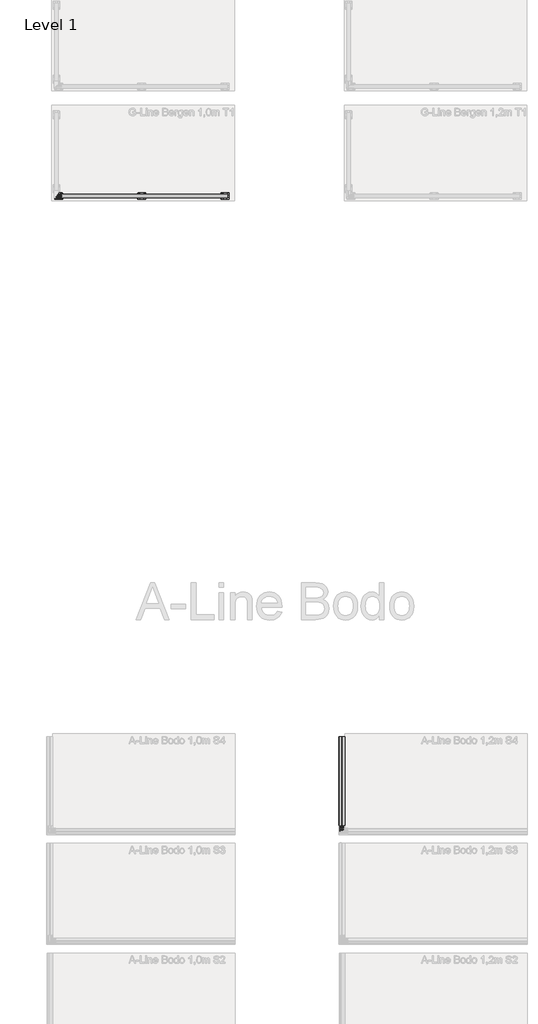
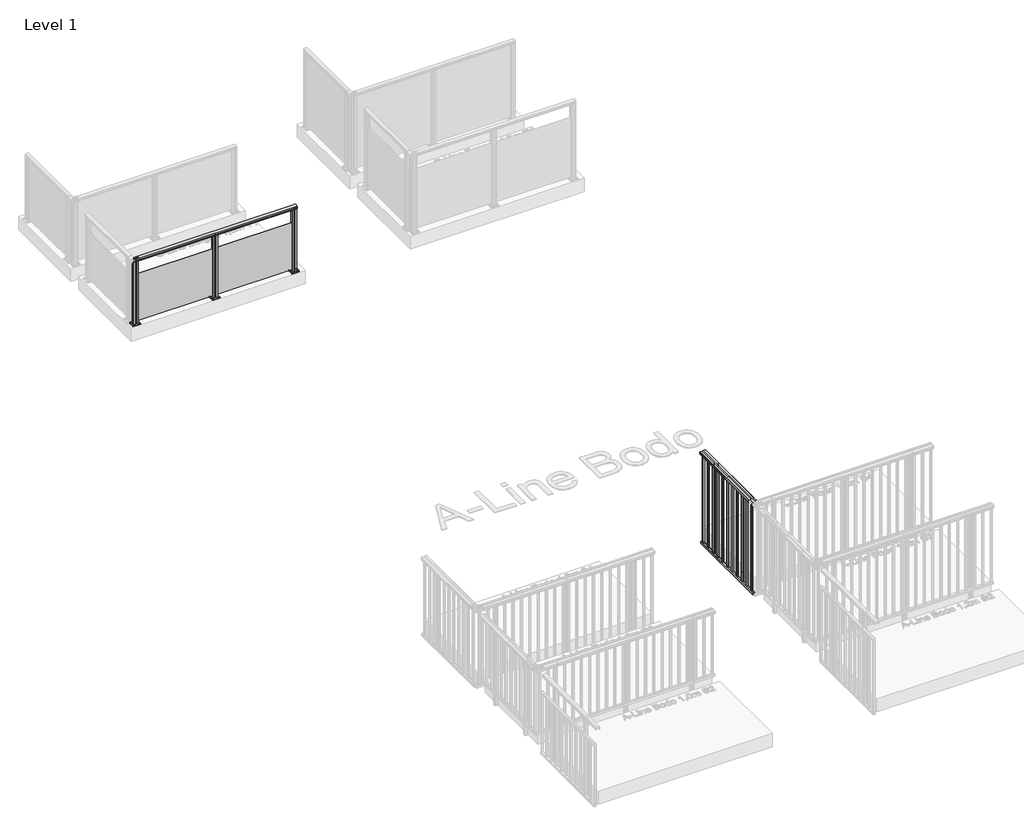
# One storey, part 16 of 66: 2 railings.
"""IFC4 building model written with IfcOpenShell, lengths in millimetres."""

from ifc_helpers import new_model, si_unit, point, frame, frame_2d, origin, origin_with_axes, place, context, project, spatial, polyline, circle_curve, trimmed, segment, composite_curve, outline, extrude, element, save

model = new_model("IFC4")

# Units and contexts
model_context = context("Model", 3, world=origin())
ifc_project = project(units=[si_unit("LENGTHUNIT", "METRE", prefix="MILLI")], contexts=[model_context])

# Site, building, storey
site = spatial("IfcSite", under=ifc_project)
building = spatial("IfcBuilding", under=site)
storey = spatial("IfcBuildingStorey", under=building, Name="Level 1", Elevation=0.0)

# Railings
placement = place(None, origin())
element("IfcRailing", 1, ObjectType="G-Line Bergen 1,0m T1", at=placement, inside=storey, context=model_context, shape_type="SweptSolid", body=[
    extrude(outline(composite_curve([segment(polyline([(-4395.1386257, 994.1390059), (-4395.1386257, 967.1990555), (-4395.7534087, 966.5842725), (-4395.1386257, 965.9694895), (-4395.1386257, 957.2498847), (-4396.8984343, 957.2498847), (-4396.8984343, 980.4998829), (-4443.8934804, 980.4998829), (-4443.8934804, 957.2498847), (-4445.6984333, 957.2498847), (-4445.6984333, 965.8194895), (-4445.0763522, 966.4415706), (-4445.658284, 967.0235023), (-4445.658284, 994.1342258)]), True, "CONTINUOUS"), segment(trimmed(circle_curve(frame_2d((-4420.393586, 942.6785502)), 57.3235687), [point((-4445.658284, 994.1342258))], [point((-4395.1386257, 994.1390059))], False, "CARTESIAN"), True, "CONTINUOUS")], self_intersect=False)), frame((4556.5263105, 0.0, 0.0), z_axis=(1.0, 0.0, 0.0), x_axis=(0.0, 1.0, 0.0)), (0.0, 0.0, 1.0), 2340.0),
    extrude(outline(polyline([(4556.5263105, -4425.4984021), (4556.5263105, -4416.7384021), (6896.5263105, -4416.7384021), (6896.5263105, -4425.4984021), (4556.5263105, -4425.4984021)])), frame((0.0, 0.0, 40.0), z_axis=(0.0, 0.0, 1.0), x_axis=(1.0, 0.0, 0.0)), (0.0, 0.0, 1.0), 710.0),
    extrude(outline(composite_curve([segment(trimmed(circle_curve(frame_2d((5686.5263105, -4451.1184021)), 11.9621755), [point((5686.5263105, -4463.0805775))], [point((5686.5263105, -4439.1562266))], False, "CARTESIAN"), True, "CONTINUOUS"), segment(trimmed(circle_curve(frame_2d((5686.5263105, -4451.1184021)), 11.9621755), [point((5686.5263105, -4439.1562266))], [point((5686.5263105, -4463.0805775))], False, "CARTESIAN"), True, "CONTINUOUS")], self_intersect=False)), frame((0.0, 0.0, 10.0), z_axis=(0.0, 0.0, 1.0), x_axis=(1.0, 0.0, 0.0)), (0.0, 0.0, 1.0), 5.0),
    extrude(outline(composite_curve([segment(trimmed(circle_curve(frame_2d((5686.5263105, -4391.1184021)), 11.9621755), [point((5686.5263105, -4403.0805775))], [point((5686.5263105, -4379.1562266))], False, "CARTESIAN"), True, "CONTINUOUS"), segment(trimmed(circle_curve(frame_2d((5686.5263105, -4391.1184021)), 11.9621755), [point((5686.5263105, -4379.1562266))], [point((5686.5263105, -4403.0805775))], False, "CARTESIAN"), True, "CONTINUOUS")], self_intersect=False)), frame((0.0, 0.0, 10.0), z_axis=(0.0, 0.0, 1.0), x_axis=(1.0, 0.0, 0.0)), (0.0, 0.0, 1.0), 5.0),
    extrude(outline(composite_curve([segment(trimmed(circle_curve(frame_2d((5766.5263105, -4451.1184021)), 11.9621755), [point((5766.5263105, -4463.0805775))], [point((5766.5263105, -4439.1562266))], False, "CARTESIAN"), True, "CONTINUOUS"), segment(trimmed(circle_curve(frame_2d((5766.5263105, -4451.1184021)), 11.9621755), [point((5766.5263105, -4439.1562266))], [point((5766.5263105, -4463.0805775))], False, "CARTESIAN"), True, "CONTINUOUS")], self_intersect=False)), frame((0.0, 0.0, 10.0), z_axis=(0.0, 0.0, 1.0), x_axis=(1.0, 0.0, 0.0)), (0.0, 0.0, 1.0), 5.0),
    extrude(outline(composite_curve([segment(trimmed(circle_curve(frame_2d((5766.5263105, -4391.1184021)), 11.9621755), [point((5766.5263105, -4403.0805775))], [point((5766.5263105, -4379.1562266))], False, "CARTESIAN"), True, "CONTINUOUS"), segment(trimmed(circle_curve(frame_2d((5766.5263105, -4391.1184021)), 11.9621755), [point((5766.5263105, -4379.1562266))], [point((5766.5263105, -4403.0805775))], False, "CARTESIAN"), True, "CONTINUOUS")], self_intersect=False)), frame((0.0, 0.0, 10.0), z_axis=(0.0, 0.0, 1.0), x_axis=(1.0, 0.0, 0.0)), (0.0, 0.0, 1.0), 5.0),
    extrude(outline(composite_curve([segment(trimmed(circle_curve(frame_2d((5676.5263105, -4381.1184021)), 5.0), [point((5671.5263105, -4381.1184021))], [point((5676.5263105, -4376.1184021))], False, "CARTESIAN"), True, "CONTINUOUS"), segment(polyline([(5676.5263105, -4376.1184021), (5776.5263105, -4376.1184021)]), True, "CONTINUOUS"), segment(trimmed(circle_curve(frame_2d((5776.5263105, -4381.1184021)), 5.0), [point((5776.5263105, -4376.1184021))], [point((5781.5263105, -4381.1184021))], False, "CARTESIAN"), True, "CONTINUOUS"), segment(polyline([(5781.5263105, -4381.1184021), (5781.5263105, -4461.1184021)]), True, "CONTINUOUS"), segment(trimmed(circle_curve(frame_2d((5776.5263105, -4461.1184021)), 5.0), [point((5781.5263105, -4461.1184021))], [point((5776.5263105, -4466.1184021))], False, "CARTESIAN"), True, "CONTINUOUS"), segment(polyline([(5776.5263105, -4466.1184021), (5676.5263105, -4466.1184021)]), True, "CONTINUOUS"), segment(trimmed(circle_curve(frame_2d((5676.5263105, -4461.1184021)), 5.0), [point((5676.5263105, -4466.1184021))], [point((5671.5263105, -4461.1184021))], False, "CARTESIAN"), True, "CONTINUOUS"), segment(polyline([(5671.5263105, -4461.1184021), (5671.5263105, -4381.1184021)]), True, "CONTINUOUS")], self_intersect=False), holes=[composite_curve([segment(trimmed(circle_curve(frame_2d((5686.5263105, -4391.1184021)), 6.25), [point((5686.5263105, -4397.3684021))], [point((5686.5263105, -4384.8684021))], True, "CARTESIAN"), True, "CONTINUOUS"), segment(trimmed(circle_curve(frame_2d((5686.5263105, -4391.1184021)), 6.25), [point((5686.5263105, -4384.8684021))], [point((5686.5263105, -4397.3684021))], True, "CARTESIAN"), True, "CONTINUOUS")], self_intersect=False), composite_curve([segment(trimmed(circle_curve(frame_2d((5686.5263105, -4451.1184021)), 6.25), [point((5686.5263105, -4457.3684021))], [point((5686.5263105, -4444.8684021))], True, "CARTESIAN"), True, "CONTINUOUS"), segment(trimmed(circle_curve(frame_2d((5686.5263105, -4451.1184021)), 6.25), [point((5686.5263105, -4444.8684021))], [point((5686.5263105, -4457.3684021))], True, "CARTESIAN"), True, "CONTINUOUS")], self_intersect=False), composite_curve([segment(trimmed(circle_curve(frame_2d((5766.5263105, -4451.1184021)), 6.25), [point((5766.5263105, -4457.3684021))], [point((5766.5263105, -4444.8684021))], True, "CARTESIAN"), True, "CONTINUOUS"), segment(trimmed(circle_curve(frame_2d((5766.5263105, -4451.1184021)), 6.25), [point((5766.5263105, -4444.8684021))], [point((5766.5263105, -4457.3684021))], True, "CARTESIAN"), True, "CONTINUOUS")], self_intersect=False), composite_curve([segment(trimmed(circle_curve(frame_2d((5766.5263105, -4391.1184021)), 6.25), [point((5766.5263105, -4397.3684021))], [point((5766.5263105, -4384.8684021))], True, "CARTESIAN"), True, "CONTINUOUS"), segment(trimmed(circle_curve(frame_2d((5766.5263105, -4391.1184021)), 6.25), [point((5766.5263105, -4384.8684021))], [point((5766.5263105, -4397.3684021))], True, "CARTESIAN"), True, "CONTINUOUS")], self_intersect=False)]), origin_with_axes(), (0.0, 0.0, 1.0), 10.0),
    extrude(outline(polyline([(5756.5247174, -4425.464264), (5756.5273896, -4443.6092639), (5727.5604026, -4443.6135298), (5726.5319584, -4442.5853885), (5725.5438599, -4443.5737781), (5696.5273844, -4443.5780513), (5696.5247181, -4425.4731002), (5714.0247179, -4425.470523), (5714.0234278, -4416.7105231), (5696.523428, -4416.7131003), (5696.5207632, -4398.6181005), (5725.4877501, -4398.6138345), (5726.525618, -4399.5321669), (5727.4037815, -4398.6537448), (5756.5207684, -4398.6494567), (5756.5234273, -4416.7042641), (5739.0234275, -4416.7068414), (5739.0247176, -4425.4668413), (5756.5247174, -4425.464264)]), holes=[polyline([(5717.7270955, -4400.6123864), (5717.7270955, -4441.6149779), (5735.3210573, -4441.6149779), (5735.3210573, -4400.6123864), (5717.7270955, -4400.6123864)]), polyline([(5698.5270957, -4427.4702726), (5698.5270957, -4441.6178055), (5715.7250124, -4441.6178055), (5715.7250124, -4427.4702726), (5698.5270957, -4427.4702726)]), polyline([(5698.5231335, -4400.6123864), (5698.5231335, -4414.7128058), (5715.7210571, -4414.7128058), (5715.7210571, -4400.6123864), (5698.5231335, -4400.6123864)]), polyline([(5737.3270953, -4427.4645586), (5737.3270953, -4441.6120914), (5754.525012, -4441.6120914), (5754.525012, -4427.4645586), (5737.3270953, -4427.4645586)]), polyline([(5737.323133, -4400.5595589), (5737.323133, -4414.7070917), (5754.5210497, -4414.7070917), (5754.5210497, -4400.5595589), (5737.323133, -4400.5595589)])]), frame((0.0, 0.0, 10.0), z_axis=(0.0, 0.0, 1.0), x_axis=(1.0, 0.0, 0.0)), (0.0, 0.0, 1.0), 971.0),
    extrude(outline(composite_curve([segment(trimmed(circle_curve(frame_2d((6826.5263105, -4451.1184021)), 11.9621755), [point((6826.5263105, -4463.0805775))], [point((6826.5263105, -4439.1562266))], False, "CARTESIAN"), True, "CONTINUOUS"), segment(trimmed(circle_curve(frame_2d((6826.5263105, -4451.1184021)), 11.9621755), [point((6826.5263105, -4439.1562266))], [point((6826.5263105, -4463.0805775))], False, "CARTESIAN"), True, "CONTINUOUS")], self_intersect=False)), frame((0.0, 0.0, 10.0), z_axis=(0.0, 0.0, 1.0), x_axis=(1.0, 0.0, 0.0)), (0.0, 0.0, 1.0), 5.0),
    extrude(outline(composite_curve([segment(trimmed(circle_curve(frame_2d((6826.5263105, -4391.1184021)), 11.9621755), [point((6826.5263105, -4403.0805775))], [point((6826.5263105, -4379.1562266))], False, "CARTESIAN"), True, "CONTINUOUS"), segment(trimmed(circle_curve(frame_2d((6826.5263105, -4391.1184021)), 11.9621755), [point((6826.5263105, -4379.1562266))], [point((6826.5263105, -4403.0805775))], False, "CARTESIAN"), True, "CONTINUOUS")], self_intersect=False)), frame((0.0, 0.0, 10.0), z_axis=(0.0, 0.0, 1.0), x_axis=(1.0, 0.0, 0.0)), (0.0, 0.0, 1.0), 5.0),
    extrude(outline(composite_curve([segment(trimmed(circle_curve(frame_2d((6906.5263105, -4451.1184021)), 11.9621755), [point((6906.5263105, -4463.0805775))], [point((6906.5263105, -4439.1562266))], False, "CARTESIAN"), True, "CONTINUOUS"), segment(trimmed(circle_curve(frame_2d((6906.5263105, -4451.1184021)), 11.9621755), [point((6906.5263105, -4439.1562266))], [point((6906.5263105, -4463.0805775))], False, "CARTESIAN"), True, "CONTINUOUS")], self_intersect=False)), frame((0.0, 0.0, 10.0), z_axis=(0.0, 0.0, 1.0), x_axis=(1.0, 0.0, 0.0)), (0.0, 0.0, 1.0), 5.0),
    extrude(outline(composite_curve([segment(trimmed(circle_curve(frame_2d((6906.5263105, -4391.1184021)), 11.9621755), [point((6906.5263105, -4403.0805775))], [point((6906.5263105, -4379.1562266))], False, "CARTESIAN"), True, "CONTINUOUS"), segment(trimmed(circle_curve(frame_2d((6906.5263105, -4391.1184021)), 11.9621755), [point((6906.5263105, -4379.1562266))], [point((6906.5263105, -4403.0805775))], False, "CARTESIAN"), True, "CONTINUOUS")], self_intersect=False)), frame((0.0, 0.0, 10.0), z_axis=(0.0, 0.0, 1.0), x_axis=(1.0, 0.0, 0.0)), (0.0, 0.0, 1.0), 5.0),
    extrude(outline(composite_curve([segment(trimmed(circle_curve(frame_2d((6816.5263105, -4381.1184021)), 5.0), [point((6811.5263105, -4381.1184021))], [point((6816.5263105, -4376.1184021))], False, "CARTESIAN"), True, "CONTINUOUS"), segment(polyline([(6816.5263105, -4376.1184021), (6916.5263105, -4376.1184021)]), True, "CONTINUOUS"), segment(trimmed(circle_curve(frame_2d((6916.5263105, -4381.1184021)), 5.0), [point((6916.5263105, -4376.1184021))], [point((6921.5263105, -4381.1184021))], False, "CARTESIAN"), True, "CONTINUOUS"), segment(polyline([(6921.5263105, -4381.1184021), (6921.5263105, -4461.1184021)]), True, "CONTINUOUS"), segment(trimmed(circle_curve(frame_2d((6916.5263105, -4461.1184021)), 5.0), [point((6921.5263105, -4461.1184021))], [point((6916.5263105, -4466.1184021))], False, "CARTESIAN"), True, "CONTINUOUS"), segment(polyline([(6916.5263105, -4466.1184021), (6816.5263105, -4466.1184021)]), True, "CONTINUOUS"), segment(trimmed(circle_curve(frame_2d((6816.5263105, -4461.1184021)), 5.0), [point((6816.5263105, -4466.1184021))], [point((6811.5263105, -4461.1184021))], False, "CARTESIAN"), True, "CONTINUOUS"), segment(polyline([(6811.5263105, -4461.1184021), (6811.5263105, -4381.1184021)]), True, "CONTINUOUS")], self_intersect=False), holes=[composite_curve([segment(trimmed(circle_curve(frame_2d((6826.5263105, -4391.1184021)), 6.25), [point((6826.5263105, -4397.3684021))], [point((6826.5263105, -4384.8684021))], True, "CARTESIAN"), True, "CONTINUOUS"), segment(trimmed(circle_curve(frame_2d((6826.5263105, -4391.1184021)), 6.25), [point((6826.5263105, -4384.8684021))], [point((6826.5263105, -4397.3684021))], True, "CARTESIAN"), True, "CONTINUOUS")], self_intersect=False), composite_curve([segment(trimmed(circle_curve(frame_2d((6826.5263105, -4451.1184021)), 6.25), [point((6826.5263105, -4457.3684021))], [point((6826.5263105, -4444.8684021))], True, "CARTESIAN"), True, "CONTINUOUS"), segment(trimmed(circle_curve(frame_2d((6826.5263105, -4451.1184021)), 6.25), [point((6826.5263105, -4444.8684021))], [point((6826.5263105, -4457.3684021))], True, "CARTESIAN"), True, "CONTINUOUS")], self_intersect=False), composite_curve([segment(trimmed(circle_curve(frame_2d((6906.5263105, -4451.1184021)), 6.25), [point((6906.5263105, -4457.3684021))], [point((6906.5263105, -4444.8684021))], True, "CARTESIAN"), True, "CONTINUOUS"), segment(trimmed(circle_curve(frame_2d((6906.5263105, -4451.1184021)), 6.25), [point((6906.5263105, -4444.8684021))], [point((6906.5263105, -4457.3684021))], True, "CARTESIAN"), True, "CONTINUOUS")], self_intersect=False), composite_curve([segment(trimmed(circle_curve(frame_2d((6906.5263105, -4391.1184021)), 6.25), [point((6906.5263105, -4397.3684021))], [point((6906.5263105, -4384.8684021))], True, "CARTESIAN"), True, "CONTINUOUS"), segment(trimmed(circle_curve(frame_2d((6906.5263105, -4391.1184021)), 6.25), [point((6906.5263105, -4384.8684021))], [point((6906.5263105, -4397.3684021))], True, "CARTESIAN"), True, "CONTINUOUS")], self_intersect=False)]), origin_with_axes(), (0.0, 0.0, 1.0), 10.0),
    extrude(outline(polyline([(6896.5247174, -4425.4642641), (6896.5273896, -4443.6092639), (6867.5604026, -4443.6135298), (6866.5319584, -4442.5853885), (6865.5438599, -4443.5737781), (6836.5273844, -4443.5780513), (6836.5247181, -4425.4731002), (6854.0247179, -4425.470523), (6854.0234278, -4416.7105231), (6836.523428, -4416.7131003), (6836.5207632, -4398.6181005), (6865.4877501, -4398.6138345), (6866.525618, -4399.5321669), (6867.4037815, -4398.6537448), (6896.5207684, -4398.6494567), (6896.5234273, -4416.7042641), (6879.0234275, -4416.7068414), (6879.0247176, -4425.4668413), (6896.5247174, -4425.4642641)]), holes=[polyline([(6857.7270955, -4400.6123864), (6857.7270955, -4441.6149779), (6875.3210573, -4441.6149779), (6875.3210573, -4400.6123864), (6857.7270955, -4400.6123864)]), polyline([(6838.5270957, -4427.4702726), (6838.5270957, -4441.6178055), (6855.7250124, -4441.6178055), (6855.7250124, -4427.4702726), (6838.5270957, -4427.4702726)]), polyline([(6838.5231335, -4400.6123864), (6838.5231335, -4414.7128058), (6855.7210571, -4414.7128058), (6855.7210571, -4400.6123864), (6838.5231335, -4400.6123864)]), polyline([(6877.3270953, -4427.4645586), (6877.3270953, -4441.6120914), (6894.525012, -4441.6120914), (6894.525012, -4427.4645586), (6877.3270953, -4427.4645586)]), polyline([(6877.323133, -4400.5595589), (6877.323133, -4414.7070917), (6894.5210497, -4414.7070917), (6894.5210497, -4400.5595589), (6877.323133, -4400.5595589)])]), frame((0.0, 0.0, 10.0), z_axis=(0.0, 0.0, 1.0), x_axis=(1.0, 0.0, 0.0)), (0.0, 0.0, 1.0), 971.0),
    extrude(outline(composite_curve([segment(trimmed(circle_curve(frame_2d((4546.5263105, -4451.1184021)), 11.9621755), [point((4546.5263105, -4463.0805775))], [point((4546.5263105, -4439.1562266))], False, "CARTESIAN"), True, "CONTINUOUS"), segment(trimmed(circle_curve(frame_2d((4546.5263105, -4451.1184021)), 11.9621755), [point((4546.5263105, -4439.1562266))], [point((4546.5263105, -4463.0805775))], False, "CARTESIAN"), True, "CONTINUOUS")], self_intersect=False)), frame((0.0, 0.0, 10.0), z_axis=(0.0, 0.0, 1.0), x_axis=(1.0, 0.0, 0.0)), (0.0, 0.0, 1.0), 5.0),
    extrude(outline(composite_curve([segment(trimmed(circle_curve(frame_2d((4546.5263105, -4391.1184021)), 11.9621755), [point((4546.5263105, -4403.0805775))], [point((4546.5263105, -4379.1562266))], False, "CARTESIAN"), True, "CONTINUOUS"), segment(trimmed(circle_curve(frame_2d((4546.5263105, -4391.1184021)), 11.9621755), [point((4546.5263105, -4379.1562266))], [point((4546.5263105, -4403.0805775))], False, "CARTESIAN"), True, "CONTINUOUS")], self_intersect=False)), frame((0.0, 0.0, 10.0), z_axis=(0.0, 0.0, 1.0), x_axis=(1.0, 0.0, 0.0)), (0.0, 0.0, 1.0), 5.0),
    extrude(outline(composite_curve([segment(trimmed(circle_curve(frame_2d((4626.5263105, -4451.1184021)), 11.9621755), [point((4626.5263105, -4463.0805775))], [point((4626.5263105, -4439.1562266))], False, "CARTESIAN"), True, "CONTINUOUS"), segment(trimmed(circle_curve(frame_2d((4626.5263105, -4451.1184021)), 11.9621755), [point((4626.5263105, -4439.1562266))], [point((4626.5263105, -4463.0805775))], False, "CARTESIAN"), True, "CONTINUOUS")], self_intersect=False)), frame((0.0, 0.0, 10.0), z_axis=(0.0, 0.0, 1.0), x_axis=(1.0, 0.0, 0.0)), (0.0, 0.0, 1.0), 5.0),
    extrude(outline(composite_curve([segment(trimmed(circle_curve(frame_2d((4626.5263105, -4391.1184021)), 11.9621755), [point((4626.5263105, -4403.0805775))], [point((4626.5263105, -4379.1562266))], False, "CARTESIAN"), True, "CONTINUOUS"), segment(trimmed(circle_curve(frame_2d((4626.5263105, -4391.1184021)), 11.9621755), [point((4626.5263105, -4379.1562266))], [point((4626.5263105, -4403.0805775))], False, "CARTESIAN"), True, "CONTINUOUS")], self_intersect=False)), frame((0.0, 0.0, 10.0), z_axis=(0.0, 0.0, 1.0), x_axis=(1.0, 0.0, 0.0)), (0.0, 0.0, 1.0), 5.0),
    extrude(outline(composite_curve([segment(trimmed(circle_curve(frame_2d((4536.5263105, -4381.1184021)), 5.0), [point((4531.5263105, -4381.1184021))], [point((4536.5263105, -4376.1184021))], False, "CARTESIAN"), True, "CONTINUOUS"), segment(polyline([(4536.5263105, -4376.1184021), (4636.5263105, -4376.1184021)]), True, "CONTINUOUS"), segment(trimmed(circle_curve(frame_2d((4636.5263105, -4381.1184021)), 5.0), [point((4636.5263105, -4376.1184021))], [point((4641.5263105, -4381.1184021))], False, "CARTESIAN"), True, "CONTINUOUS"), segment(polyline([(4641.5263105, -4381.1184021), (4641.5263105, -4461.1184021)]), True, "CONTINUOUS"), segment(trimmed(circle_curve(frame_2d((4636.5263105, -4461.1184021)), 5.0), [point((4641.5263105, -4461.1184021))], [point((4636.5263105, -4466.1184021))], False, "CARTESIAN"), True, "CONTINUOUS"), segment(polyline([(4636.5263105, -4466.1184021), (4536.5263105, -4466.1184021)]), True, "CONTINUOUS"), segment(trimmed(circle_curve(frame_2d((4536.5263105, -4461.1184021)), 5.0), [point((4536.5263105, -4466.1184021))], [point((4531.5263105, -4461.1184021))], False, "CARTESIAN"), True, "CONTINUOUS"), segment(polyline([(4531.5263105, -4461.1184021), (4531.5263105, -4381.1184021)]), True, "CONTINUOUS")], self_intersect=False), holes=[composite_curve([segment(trimmed(circle_curve(frame_2d((4546.5263105, -4391.1184021)), 6.25), [point((4546.5263105, -4397.3684021))], [point((4546.5263105, -4384.8684021))], True, "CARTESIAN"), True, "CONTINUOUS"), segment(trimmed(circle_curve(frame_2d((4546.5263105, -4391.1184021)), 6.25), [point((4546.5263105, -4384.8684021))], [point((4546.5263105, -4397.3684021))], True, "CARTESIAN"), True, "CONTINUOUS")], self_intersect=False), composite_curve([segment(trimmed(circle_curve(frame_2d((4546.5263105, -4451.1184021)), 6.25), [point((4546.5263105, -4457.3684021))], [point((4546.5263105, -4444.8684021))], True, "CARTESIAN"), True, "CONTINUOUS"), segment(trimmed(circle_curve(frame_2d((4546.5263105, -4451.1184021)), 6.25), [point((4546.5263105, -4444.8684021))], [point((4546.5263105, -4457.3684021))], True, "CARTESIAN"), True, "CONTINUOUS")], self_intersect=False), composite_curve([segment(trimmed(circle_curve(frame_2d((4626.5263105, -4451.1184021)), 6.25), [point((4626.5263105, -4457.3684021))], [point((4626.5263105, -4444.8684021))], True, "CARTESIAN"), True, "CONTINUOUS"), segment(trimmed(circle_curve(frame_2d((4626.5263105, -4451.1184021)), 6.25), [point((4626.5263105, -4444.8684021))], [point((4626.5263105, -4457.3684021))], True, "CARTESIAN"), True, "CONTINUOUS")], self_intersect=False), composite_curve([segment(trimmed(circle_curve(frame_2d((4626.5263105, -4391.1184021)), 6.25), [point((4626.5263105, -4397.3684021))], [point((4626.5263105, -4384.8684021))], True, "CARTESIAN"), True, "CONTINUOUS"), segment(trimmed(circle_curve(frame_2d((4626.5263105, -4391.1184021)), 6.25), [point((4626.5263105, -4384.8684021))], [point((4626.5263105, -4397.3684021))], True, "CARTESIAN"), True, "CONTINUOUS")], self_intersect=False)]), origin_with_axes(), (0.0, 0.0, 1.0), 10.0),
    extrude(outline(polyline([(4616.5247174, -4425.464264), (4616.5273896, -4443.6092639), (4587.5604026, -4443.6135298), (4586.5319584, -4442.5853885), (4585.5438599, -4443.5737781), (4556.5273844, -4443.5780513), (4556.5247181, -4425.4731002), (4574.0247179, -4425.470523), (4574.0234278, -4416.7105231), (4556.523428, -4416.7131003), (4556.5207632, -4398.6181005), (4585.4877501, -4398.6138345), (4586.525618, -4399.5321669), (4587.4037815, -4398.6537448), (4616.5207684, -4398.6494567), (4616.5234273, -4416.7042641), (4599.0234275, -4416.7068413), (4599.0247176, -4425.4668413), (4616.5247174, -4425.464264)]), holes=[polyline([(4577.7270955, -4400.6123864), (4577.7270955, -4441.6149779), (4595.3210573, -4441.6149779), (4595.3210573, -4400.6123864), (4577.7270955, -4400.6123864)]), polyline([(4558.5270957, -4427.4702726), (4558.5270957, -4441.6178055), (4575.7250124, -4441.6178055), (4575.7250124, -4427.4702726), (4558.5270957, -4427.4702726)]), polyline([(4558.5231335, -4400.6123864), (4558.5231335, -4414.7128058), (4575.7210571, -4414.7128058), (4575.7210571, -4400.6123864), (4558.5231335, -4400.6123864)]), polyline([(4597.3270953, -4427.4645586), (4597.3270953, -4441.6120914), (4614.525012, -4441.6120914), (4614.525012, -4427.4645586), (4597.3270953, -4427.4645586)]), polyline([(4597.323133, -4400.5595589), (4597.323133, -4414.7070917), (4614.5210497, -4414.7070917), (4614.5210497, -4400.5595589), (4597.323133, -4400.5595589)])]), frame((0.0, 0.0, 10.0), z_axis=(0.0, 0.0, 1.0), x_axis=(1.0, 0.0, 0.0)), (0.0, 0.0, 1.0), 971.0),
])
element("IfcRailing", 2, ObjectType="A-Line Bodo 1,2m S4", at=placement, inside=storey, context=model_context, shape_type="SweptSolid", body=[
    extrude(outline(composite_curve([segment(polyline([(1170.6825033, 8424.0540283), (1170.0570224, 8424.6795093), (1169.4717338, 8424.0942207), (1165.5021186, 8424.0540283)]), True, "CONTINUOUS"), segment(trimmed(circle_curve(frame_2d((1165.5021186, 8424.5540283)), 0.5), [point((1165.5021186, 8424.0540283))], [point((1165.0021186, 8424.5540283))], False, "CARTESIAN"), True, "CONTINUOUS"), segment(polyline([(1165.0021186, 8424.5540283), (1165.0021186, 8425.5540283), (1179.5021186, 8425.5540283)]), True, "CONTINUOUS"), segment(trimmed(circle_curve(frame_2d((1179.5021186, 8426.0540283)), 0.5), [point((1179.5021186, 8425.5540283))], [point((1180.0021186, 8426.0540283))], True, "CARTESIAN"), True, "CONTINUOUS"), segment(polyline([(1180.0021186, 8426.0540283), (1180.0021186, 8504.0540283)]), True, "CONTINUOUS"), segment(trimmed(circle_curve(frame_2d((1179.5021186, 8504.0540283)), 0.5), [point((1180.0021186, 8504.0540283))], [point((1179.5021186, 8504.5540283))], True, "CARTESIAN"), True, "CONTINUOUS"), segment(polyline([(1179.5021186, 8504.5540283), (1165.0021186, 8504.5540283), (1165.0021186, 8505.5540283)]), True, "CONTINUOUS"), segment(trimmed(circle_curve(frame_2d((1165.5021186, 8505.5540283)), 0.5), [point((1165.0021186, 8505.5540283))], [point((1165.5021186, 8506.0540283))], False, "CARTESIAN"), True, "CONTINUOUS"), segment(polyline([(1165.5021186, 8506.0540283), (1169.2627449, 8506.0540283), (1169.9177203, 8505.3990529), (1170.5325033, 8506.0138359), (1191.2139911, 8506.0540283)]), True, "CONTINUOUS"), segment(trimmed(circle_curve(frame_2d((1191.2139911, 8503.0540283)), 3.0), [point((1191.2139911, 8506.0540283))], [point((1194.0180233, 8504.1205197))], False, "CARTESIAN"), True, "CONTINUOUS"), segment(trimmed(circle_curve(frame_2d((1108.3938053, 8471.5540283)), 91.6083133), [point((1194.0180233, 8504.1205197))], [point((1200.0021186, 8471.5540283))], False, "CARTESIAN"), True, "CONTINUOUS"), segment(polyline([(1200.0021186, 8471.5540283), (1200.0021186, 8458.5540283)]), True, "CONTINUOUS"), segment(trimmed(circle_curve(frame_2d((1108.3938053, 8458.5540283)), 91.6083133), [point((1200.0021186, 8458.5540283))], [point((1194.0180233, 8425.987537))], False, "CARTESIAN"), True, "CONTINUOUS"), segment(trimmed(circle_curve(frame_2d((1191.2139911, 8427.0540283)), 3.0), [point((1194.0180233, 8425.987537))], [point((1191.2139911, 8424.0540283))], False, "CARTESIAN"), True, "CONTINUOUS"), segment(polyline([(1191.2139911, 8424.0540283), (1170.6825033, 8424.0540283)]), True, "CONTINUOUS")], self_intersect=False)), frame((0.0, -13103.5446761, 0.0), z_axis=(0.0, 1.0, 0.0), x_axis=(0.0, 0.0, 1.0)), (0.0, 0.0, 1.0), 1290.0),
    extrude(outline(composite_curve([segment(polyline([(1177.0, 8434.5047322), (1144.8, 8434.5047322)]), True, "CONTINUOUS"), segment(trimmed(circle_curve(frame_2d((1144.8, 8435.5047322)), 1.0), [point((1144.8, 8434.5047322))], [point((1143.8, 8435.5047322))], False, "CARTESIAN"), True, "CONTINUOUS"), segment(polyline([(1143.8, 8435.5047322), (1143.8, 8462.6047322)]), True, "CONTINUOUS"), segment(trimmed(circle_curve(frame_2d((1144.8, 8462.6047322)), 1.0), [point((1143.8, 8462.6047322))], [point((1144.8, 8463.6047322))], False, "CARTESIAN"), True, "CONTINUOUS"), segment(polyline([(1144.8, 8463.6047322), (1177.0, 8463.6047322)]), True, "CONTINUOUS"), segment(trimmed(circle_curve(frame_2d((1177.0, 8462.6047322)), 1.0), [point((1177.0, 8463.6047322))], [point((1178.0, 8462.6047322))], False, "CARTESIAN"), True, "CONTINUOUS"), segment(polyline([(1178.0, 8462.6047322), (1178.0, 8435.5047322)]), True, "CONTINUOUS"), segment(trimmed(circle_curve(frame_2d((1177.0, 8435.5047322)), 1.0), [point((1178.0, 8435.5047322))], [point((1177.0, 8434.5047322))], False, "CARTESIAN"), True, "CONTINUOUS")], self_intersect=False)), frame((0.0, -13103.5446761, 0.0), z_axis=(0.0, 1.0, 0.0), x_axis=(0.0, 0.0, 1.0)), (0.0, 0.0, 1.0), 1290.0),
    extrude(outline(composite_curve([segment(trimmed(circle_curve(frame_2d((-166.8, 8435.5047322)), 1.0), [point((-165.8, 8435.5047322))], [point((-166.8, 8434.5047322))], False, "CARTESIAN"), True, "CONTINUOUS"), segment(polyline([(-166.8, 8434.5047322), (-199.0, 8434.5047322)]), True, "CONTINUOUS"), segment(trimmed(circle_curve(frame_2d((-199.0, 8435.5047322)), 1.0), [point((-199.0, 8434.5047322))], [point((-200.0, 8435.5047322))], False, "CARTESIAN"), True, "CONTINUOUS"), segment(polyline([(-200.0, 8435.5047322), (-200.0, 8462.6047322)]), True, "CONTINUOUS"), segment(trimmed(circle_curve(frame_2d((-199.0, 8462.6047322)), 1.0), [point((-200.0, 8462.6047322))], [point((-199.0, 8463.6047322))], False, "CARTESIAN"), True, "CONTINUOUS"), segment(polyline([(-199.0, 8463.6047322), (-166.8, 8463.6047322)]), True, "CONTINUOUS"), segment(trimmed(circle_curve(frame_2d((-166.8, 8462.6047322)), 1.0), [point((-166.8, 8463.6047322))], [point((-165.8, 8462.6047322))], False, "CARTESIAN"), True, "CONTINUOUS"), segment(polyline([(-165.8, 8462.6047322), (-165.8, 8435.5047322)]), True, "CONTINUOUS")], self_intersect=False)), frame((0.0, -13103.5446761, 0.0), z_axis=(0.0, 1.0, 0.0), x_axis=(0.0, 0.0, 1.0)), (0.0, 0.0, 1.0), 1290.0),
    extrude(outline(polyline([(8439.0547322, -13048.5446761), (8459.0547322, -13048.5446761), (8459.0547322, -13068.5446761), (8439.0547322, -13068.5446761), (8439.0547322, -13048.5446761)]), holes=[polyline([(8441.0547322, -13050.5446761), (8441.0547322, -13066.5446761), (8457.0547322, -13066.5446761), (8457.0547322, -13050.5446761), (8441.0547322, -13050.5446761)])]), frame((0.0, 0.0, -166.0), z_axis=(0.0, 0.0, 1.0), x_axis=(1.0, 0.0, 0.0)), (0.0, 0.0, 1.0), 1310.0),
    extrude(outline(polyline([(8439.0547322, -12928.5446761), (8459.0547322, -12928.5446761), (8459.0547322, -12948.5446761), (8439.0547322, -12948.5446761), (8439.0547322, -12928.5446761)]), holes=[polyline([(8441.0547322, -12930.5446761), (8441.0547322, -12946.5446761), (8457.0547322, -12946.5446761), (8457.0547322, -12930.5446761), (8441.0547322, -12930.5446761)])]), frame((0.0, 0.0, -166.0), z_axis=(0.0, 0.0, 1.0), x_axis=(1.0, 0.0, 0.0)), (0.0, 0.0, 1.0), 1310.0),
    extrude(outline(polyline([(8439.0547322, -12808.5446761), (8459.0547322, -12808.5446761), (8459.0547322, -12828.5446761), (8439.0547322, -12828.5446761), (8439.0547322, -12808.5446761)]), holes=[polyline([(8441.0547322, -12810.5446761), (8441.0547322, -12826.5446761), (8457.0547322, -12826.5446761), (8457.0547322, -12810.5446761), (8441.0547322, -12810.5446761)])]), frame((0.0, 0.0, -166.0), z_axis=(0.0, 0.0, 1.0), x_axis=(1.0, 0.0, 0.0)), (0.0, 0.0, 1.0), 1310.0),
    extrude(outline(polyline([(8439.0547322, -12688.5446761), (8459.0547322, -12688.5446761), (8459.0547322, -12708.5446761), (8439.0547322, -12708.5446761), (8439.0547322, -12688.5446761)]), holes=[polyline([(8441.0547322, -12690.5446761), (8441.0547322, -12706.5446761), (8457.0547322, -12706.5446761), (8457.0547322, -12690.5446761), (8441.0547322, -12690.5446761)])]), frame((0.0, 0.0, -166.0), z_axis=(0.0, 0.0, 1.0), x_axis=(1.0, 0.0, 0.0)), (0.0, 0.0, 1.0), 1310.0),
    extrude(outline(polyline([(8439.0547322, -12568.5446761), (8459.0547322, -12568.5446761), (8459.0547322, -12588.5446761), (8439.0547322, -12588.5446761), (8439.0547322, -12568.5446761)]), holes=[polyline([(8441.0547322, -12570.5446761), (8441.0547322, -12586.5446761), (8457.0547322, -12586.5446761), (8457.0547322, -12570.5446761), (8441.0547322, -12570.5446761)])]), frame((0.0, 0.0, -166.0), z_axis=(0.0, 0.0, 1.0), x_axis=(1.0, 0.0, 0.0)), (0.0, 0.0, 1.0), 1310.0),
    extrude(outline(polyline([(8439.0547322, -12448.5446761), (8459.0547322, -12448.5446761), (8459.0547322, -12468.5446761), (8439.0547322, -12468.5446761), (8439.0547322, -12448.5446761)]), holes=[polyline([(8441.0547322, -12450.5446761), (8441.0547322, -12466.5446761), (8457.0547322, -12466.5446761), (8457.0547322, -12450.5446761), (8441.0547322, -12450.5446761)])]), frame((0.0, 0.0, -166.0), z_axis=(0.0, 0.0, 1.0), x_axis=(1.0, 0.0, 0.0)), (0.0, 0.0, 1.0), 1310.0),
    extrude(outline(polyline([(8439.0547322, -12328.5446761), (8459.0547322, -12328.5446761), (8459.0547322, -12348.5446761), (8439.0547322, -12348.5446761), (8439.0547322, -12328.5446761)]), holes=[polyline([(8441.0547322, -12330.5446761), (8441.0547322, -12346.5446761), (8457.0547322, -12346.5446761), (8457.0547322, -12330.5446761), (8441.0547322, -12330.5446761)])]), frame((0.0, 0.0, -166.0), z_axis=(0.0, 0.0, 1.0), x_axis=(1.0, 0.0, 0.0)), (0.0, 0.0, 1.0), 1310.0),
    extrude(outline(polyline([(8439.0547322, -12208.5446761), (8459.0547322, -12208.5446761), (8459.0547322, -12228.5446761), (8439.0547322, -12228.5446761), (8439.0547322, -12208.5446761)]), holes=[polyline([(8441.0547322, -12210.5446761), (8441.0547322, -12226.5446761), (8457.0547322, -12226.5446761), (8457.0547322, -12210.5446761), (8441.0547322, -12210.5446761)])]), frame((0.0, 0.0, -166.0), z_axis=(0.0, 0.0, 1.0), x_axis=(1.0, 0.0, 0.0)), (0.0, 0.0, 1.0), 1310.0),
    extrude(outline(polyline([(8439.0547322, -12088.5446761), (8459.0547322, -12088.5446761), (8459.0547322, -12108.5446761), (8439.0547322, -12108.5446761), (8439.0547322, -12088.5446761)]), holes=[polyline([(8441.0547322, -12090.5446761), (8441.0547322, -12106.5446761), (8457.0547322, -12106.5446761), (8457.0547322, -12090.5446761), (8441.0547322, -12090.5446761)])]), frame((0.0, 0.0, -166.0), z_axis=(0.0, 0.0, 1.0), x_axis=(1.0, 0.0, 0.0)), (0.0, 0.0, 1.0), 1310.0),
    extrude(outline(polyline([(8439.0547322, -11968.5446761), (8459.0547322, -11968.5446761), (8459.0547322, -11988.5446761), (8439.0547322, -11988.5446761), (8439.0547322, -11968.5446761)]), holes=[polyline([(8441.0547322, -11970.5446761), (8441.0547322, -11986.5446761), (8457.0547322, -11986.5446761), (8457.0547322, -11970.5446761), (8441.0547322, -11970.5446761)])]), frame((0.0, 0.0, -166.0), z_axis=(0.0, 0.0, 1.0), x_axis=(1.0, 0.0, 0.0)), (0.0, 0.0, 1.0), 1310.0),
    extrude(outline(polyline([(8439.0547322, -11848.5446761), (8459.0547322, -11848.5446761), (8459.0547322, -11868.5446761), (8439.0547322, -11868.5446761), (8439.0547322, -11848.5446761)]), holes=[polyline([(8441.0547322, -11850.5446761), (8441.0547322, -11866.5446761), (8457.0547322, -11866.5446761), (8457.0547322, -11850.5446761), (8441.0547322, -11850.5446761)])]), frame((0.0, 0.0, -166.0), z_axis=(0.0, 0.0, 1.0), x_axis=(1.0, 0.0, 0.0)), (0.0, 0.0, 1.0), 1310.0),
    extrude(outline(composite_curve([segment(polyline([(8504.0547322, -12804.3474631), (8504.0547322, -12821.370763)]), True, "CONTINUOUS"), segment(trimmed(circle_curve(frame_2d((8501.8808192, -12821.370763)), 2.173913), [point((8504.0547322, -12821.370763))], [point((8501.8808192, -12823.5446761))], False, "CARTESIAN"), True, "CONTINUOUS"), segment(polyline([(8501.8808192, -12823.5446761), (8466.2286453, -12823.5446761)]), True, "CONTINUOUS"), segment(trimmed(circle_curve(frame_2d((8466.2286453, -12821.370763)), 2.173913), [point((8466.2286453, -12823.5446761))], [point((8464.0547322, -12821.370763))], False, "CARTESIAN"), True, "CONTINUOUS"), segment(polyline([(8464.0547322, -12821.370763), (8464.0896821, -12804.3125132), (8464.8575193, -12803.5446761), (8464.0896821, -12802.7768389), (8464.0547322, -12785.7185891)]), True, "CONTINUOUS"), segment(trimmed(circle_curve(frame_2d((8466.2286453, -12785.7185891)), 2.173913), [point((8464.0547322, -12785.7185891))], [point((8466.2286453, -12783.5446761))], False, "CARTESIAN"), True, "CONTINUOUS"), segment(polyline([(8466.2286453, -12783.5446761), (8501.8808192, -12783.5446761)]), True, "CONTINUOUS"), segment(trimmed(circle_curve(frame_2d((8501.8808192, -12785.7185891)), 2.173913), [point((8501.8808192, -12783.5446761))], [point((8504.0547322, -12785.718589))], False, "CARTESIAN"), True, "CONTINUOUS"), segment(polyline([(8504.0547322, -12785.718589), (8504.0197823, -12802.7768389), (8503.2519452, -12803.5446761), (8504.0547322, -12804.3474631)]), True, "CONTINUOUS")], self_intersect=False)), frame((0.0, 0.0, -200.0), z_axis=(0.0, 0.0, 1.0), x_axis=(1.0, 0.0, 0.0)), (0.0, 0.0, 1.0), 10.0),
    extrude(outline(composite_curve([segment(trimmed(circle_curve(frame_2d((0.0, 12.0)), 12.0), [point((0.0, 23.9999999))], [point((0.0, 0.0))], False, "CARTESIAN"), True, "CONTINUOUS"), segment(trimmed(circle_curve(frame_2d((0.0, 12.0)), 12.0), [point((0.0, 0.0))], [point((0.0, 23.9999999))], False, "CARTESIAN"), True, "CONTINUOUS")], self_intersect=False)), frame((8464.0666505, -12791.5356385, -151.0), z_axis=(-0.9999999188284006, 0.00040291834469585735, 0.0), x_axis=(0.0, 0.0, -1.0)), (0.0, 0.0, 1.0), 3.0757477),
    extrude(outline(composite_curve([segment(trimmed(circle_curve(frame_2d((0.0, 12.0)), 12.0), [point((0.0, 23.9999999))], [point((0.0, 0.0))], False, "CARTESIAN"), True, "CONTINUOUS"), segment(trimmed(circle_curve(frame_2d((0.0, 12.0)), 12.0), [point((0.0, 0.0))], [point((0.0, 23.9999999))], False, "CARTESIAN"), True, "CONTINUOUS")], self_intersect=False)), frame((8464.0666505, -12791.5356385, -50.0), z_axis=(-0.9999999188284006, 0.00040291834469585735, 0.0), x_axis=(0.0, 0.0, -1.0)), (0.0, 0.0, 1.0), 3.0757477),
    extrude(outline(composite_curve([segment(trimmed(circle_curve(frame_2d((8501.8808192, -12785.7185891)), 2.173913), [point((8501.8808192, -12783.5446761))], [point((8504.0547322, -12785.7185891))], False, "CARTESIAN"), True, "CONTINUOUS"), segment(polyline([(8504.0547322, -12785.7185891), (8504.0197823, -12802.7768389), (8503.6517779, -12803.6751108), (8504.0547322, -12804.442948), (8504.0547322, -12821.370763)]), True, "CONTINUOUS"), segment(trimmed(circle_curve(frame_2d((8501.8808192, -12821.370763)), 2.173913), [point((8504.0547322, -12821.370763))], [point((8501.8808192, -12823.5446761))], False, "CARTESIAN"), True, "CONTINUOUS"), segment(polyline([(8501.8808192, -12823.5446761), (8466.2286453, -12823.5446761)]), True, "CONTINUOUS"), segment(trimmed(circle_curve(frame_2d((8466.2286453, -12821.370763)), 2.173913), [point((8466.2286453, -12823.5446761))], [point((8464.0547322, -12821.370763))], False, "CARTESIAN"), True, "CONTINUOUS"), segment(polyline([(8464.0547322, -12821.370763), (8464.0896821, -12804.3125132), (8464.8575193, -12803.5446761), (8464.0896821, -12802.7768389), (8464.0547322, -12785.7185891)]), True, "CONTINUOUS"), segment(trimmed(circle_curve(frame_2d((8466.2286453, -12785.7185891)), 2.173913), [point((8464.0547322, -12785.7185891))], [point((8466.2286453, -12783.5446761))], False, "CARTESIAN"), True, "CONTINUOUS"), segment(polyline([(8466.2286453, -12783.5446761), (8501.8808192, -12783.5446761)]), True, "CONTINUOUS")], self_intersect=False), holes=[composite_curve([segment(polyline([(8499.7069062, -12787.0229369), (8468.4025583, -12787.0229369)]), True, "CONTINUOUS"), segment(trimmed(circle_curve(frame_2d((8468.4025583, -12787.8925022)), 0.8695652), [point((8468.4025583, -12787.0229369))], [point((8467.5329931, -12787.8925022))], True, "CARTESIAN"), True, "CONTINUOUS"), segment(polyline([(8467.5329931, -12787.8925022), (8467.5329931, -12819.19685)]), True, "CONTINUOUS"), segment(trimmed(circle_curve(frame_2d((8468.4025583, -12819.19685)), 0.8695652), [point((8467.5329931, -12819.19685))], [point((8468.4025583, -12820.0664152))], True, "CARTESIAN"), True, "CONTINUOUS"), segment(polyline([(8468.4025583, -12820.0664152), (8499.7069062, -12820.0664152)]), True, "CONTINUOUS"), segment(trimmed(circle_curve(frame_2d((8499.7069062, -12819.19685)), 0.8695652), [point((8499.7069062, -12820.0664152))], [point((8500.5764714, -12819.19685))], True, "CARTESIAN"), True, "CONTINUOUS"), segment(polyline([(8500.5764714, -12819.19685), (8500.5764714, -12787.8925022)]), True, "CONTINUOUS"), segment(trimmed(circle_curve(frame_2d((8499.7069062, -12787.8925022)), 0.8695652), [point((8500.5764714, -12787.8925022))], [point((8499.7069062, -12787.0229369))], True, "CARTESIAN"), True, "CONTINUOUS")], self_intersect=False)]), frame((0.0, 0.0, -190.0), z_axis=(0.0, 0.0, 1.0), x_axis=(1.0, 0.0, 0.0)), (0.0, 0.0, 1.0), 1371.0),
    extrude(outline(composite_curve([segment(polyline([(8504.0547322, -12114.3474631), (8504.0547322, -12131.370763)]), True, "CONTINUOUS"), segment(trimmed(circle_curve(frame_2d((8501.8808192, -12131.370763)), 2.173913), [point((8504.0547322, -12131.370763))], [point((8501.8808192, -12133.5446761))], False, "CARTESIAN"), True, "CONTINUOUS"), segment(polyline([(8501.8808192, -12133.5446761), (8466.2286453, -12133.5446761)]), True, "CONTINUOUS"), segment(trimmed(circle_curve(frame_2d((8466.2286453, -12131.370763)), 2.173913), [point((8466.2286453, -12133.5446761))], [point((8464.0547322, -12131.370763))], False, "CARTESIAN"), True, "CONTINUOUS"), segment(polyline([(8464.0547322, -12131.370763), (8464.0896821, -12114.3125132), (8464.8575193, -12113.5446761), (8464.0896821, -12112.7768389), (8464.0547322, -12095.7185891)]), True, "CONTINUOUS"), segment(trimmed(circle_curve(frame_2d((8466.2286453, -12095.7185891)), 2.173913), [point((8464.0547322, -12095.7185891))], [point((8466.2286453, -12093.5446761))], False, "CARTESIAN"), True, "CONTINUOUS"), segment(polyline([(8466.2286453, -12093.5446761), (8501.8808192, -12093.5446761)]), True, "CONTINUOUS"), segment(trimmed(circle_curve(frame_2d((8501.8808192, -12095.7185891)), 2.173913), [point((8501.8808192, -12093.5446761))], [point((8504.0547322, -12095.718589))], False, "CARTESIAN"), True, "CONTINUOUS"), segment(polyline([(8504.0547322, -12095.718589), (8504.0197823, -12112.7768389), (8503.2519452, -12113.5446761), (8504.0547322, -12114.3474631)]), True, "CONTINUOUS")], self_intersect=False)), frame((0.0, 0.0, -200.0), z_axis=(0.0, 0.0, 1.0), x_axis=(1.0, 0.0, 0.0)), (0.0, 0.0, 1.0), 10.0),
    extrude(outline(composite_curve([segment(trimmed(circle_curve(frame_2d((0.0, 12.0)), 12.0), [point((0.0, 23.9999999))], [point((0.0, 0.0))], False, "CARTESIAN"), True, "CONTINUOUS"), segment(trimmed(circle_curve(frame_2d((0.0, 12.0)), 12.0), [point((0.0, 0.0))], [point((0.0, 23.9999999))], False, "CARTESIAN"), True, "CONTINUOUS")], self_intersect=False)), frame((8464.0666505, -12101.5356385, -151.0), z_axis=(-0.9999999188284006, 0.00040291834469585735, 0.0), x_axis=(0.0, 0.0, -1.0)), (0.0, 0.0, 1.0), 3.0757477),
    extrude(outline(composite_curve([segment(trimmed(circle_curve(frame_2d((0.0, 12.0)), 12.0), [point((0.0, 23.9999999))], [point((0.0, 0.0))], False, "CARTESIAN"), True, "CONTINUOUS"), segment(trimmed(circle_curve(frame_2d((0.0, 12.0)), 12.0), [point((0.0, 0.0))], [point((0.0, 23.9999999))], False, "CARTESIAN"), True, "CONTINUOUS")], self_intersect=False)), frame((8464.0666505, -12101.5356385, -50.0), z_axis=(-0.9999999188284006, 0.00040291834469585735, 0.0), x_axis=(0.0, 0.0, -1.0)), (0.0, 0.0, 1.0), 3.0757477),
    extrude(outline(composite_curve([segment(trimmed(circle_curve(frame_2d((8501.8808192, -12095.7185891)), 2.173913), [point((8501.8808192, -12093.5446761))], [point((8504.0547322, -12095.7185891))], False, "CARTESIAN"), True, "CONTINUOUS"), segment(polyline([(8504.0547322, -12095.7185891), (8504.0197823, -12112.7768389), (8503.6517779, -12113.6751108), (8504.0547322, -12114.442948), (8504.0547322, -12131.370763)]), True, "CONTINUOUS"), segment(trimmed(circle_curve(frame_2d((8501.8808192, -12131.370763)), 2.173913), [point((8504.0547322, -12131.370763))], [point((8501.8808192, -12133.5446761))], False, "CARTESIAN"), True, "CONTINUOUS"), segment(polyline([(8501.8808192, -12133.5446761), (8466.2286453, -12133.5446761)]), True, "CONTINUOUS"), segment(trimmed(circle_curve(frame_2d((8466.2286453, -12131.370763)), 2.173913), [point((8466.2286453, -12133.5446761))], [point((8464.0547322, -12131.370763))], False, "CARTESIAN"), True, "CONTINUOUS"), segment(polyline([(8464.0547322, -12131.370763), (8464.0896821, -12114.3125132), (8464.8575193, -12113.5446761), (8464.0896821, -12112.7768389), (8464.0547322, -12095.7185891)]), True, "CONTINUOUS"), segment(trimmed(circle_curve(frame_2d((8466.2286453, -12095.7185891)), 2.173913), [point((8464.0547322, -12095.7185891))], [point((8466.2286453, -12093.5446761))], False, "CARTESIAN"), True, "CONTINUOUS"), segment(polyline([(8466.2286453, -12093.5446761), (8501.8808192, -12093.5446761)]), True, "CONTINUOUS")], self_intersect=False), holes=[composite_curve([segment(polyline([(8499.7069062, -12097.0229369), (8468.4025583, -12097.0229369)]), True, "CONTINUOUS"), segment(trimmed(circle_curve(frame_2d((8468.4025583, -12097.8925022)), 0.8695652), [point((8468.4025583, -12097.0229369))], [point((8467.5329931, -12097.8925022))], True, "CARTESIAN"), True, "CONTINUOUS"), segment(polyline([(8467.5329931, -12097.8925022), (8467.5329931, -12129.19685)]), True, "CONTINUOUS"), segment(trimmed(circle_curve(frame_2d((8468.4025583, -12129.19685)), 0.8695652), [point((8467.5329931, -12129.19685))], [point((8468.4025583, -12130.0664152))], True, "CARTESIAN"), True, "CONTINUOUS"), segment(polyline([(8468.4025583, -12130.0664152), (8499.7069062, -12130.0664152)]), True, "CONTINUOUS"), segment(trimmed(circle_curve(frame_2d((8499.7069062, -12129.19685)), 0.8695652), [point((8499.7069062, -12130.0664152))], [point((8500.5764714, -12129.19685))], True, "CARTESIAN"), True, "CONTINUOUS"), segment(polyline([(8500.5764714, -12129.19685), (8500.5764714, -12097.8925022)]), True, "CONTINUOUS"), segment(trimmed(circle_curve(frame_2d((8499.7069062, -12097.8925022)), 0.8695652), [point((8500.5764714, -12097.8925022))], [point((8499.7069062, -12097.0229369))], True, "CARTESIAN"), True, "CONTINUOUS")], self_intersect=False)]), frame((0.0, 0.0, -190.0), z_axis=(0.0, 0.0, 1.0), x_axis=(1.0, 0.0, 0.0)), (0.0, 0.0, 1.0), 1371.0),
])

save(model, "model.ifc")
